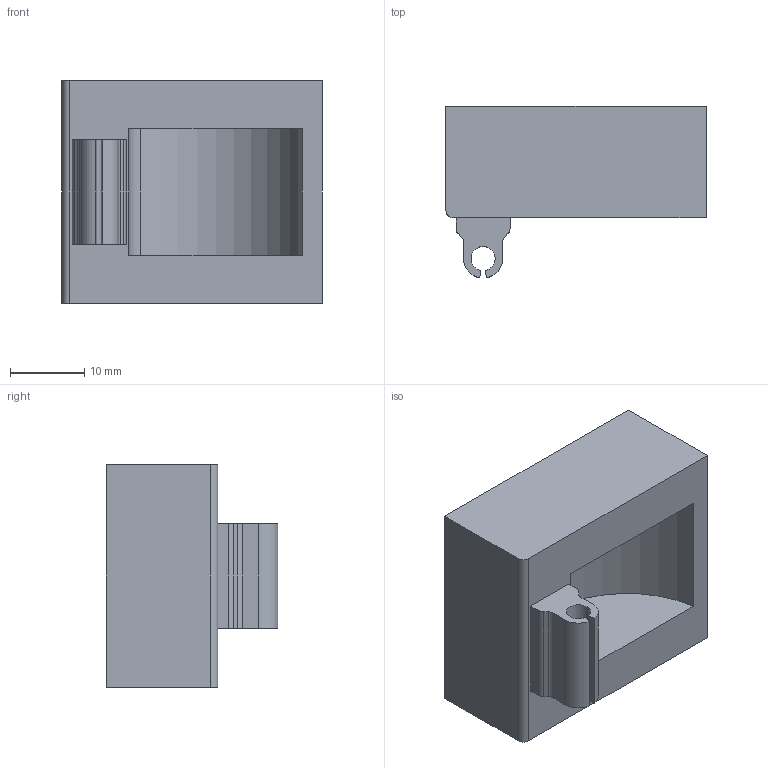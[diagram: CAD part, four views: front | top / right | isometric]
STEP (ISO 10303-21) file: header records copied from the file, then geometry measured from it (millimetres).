
FILE_DESCRIPTION (( 'STEP AP214' ), '1' );
FILE_NAME ('2023-15 - CUVETTE HOLDER LID VARIANT FDM.STEP', '2024-01-24T11:48:19', ( '' ), ( '' ), 'SwSTEP 2.0', 'SolidWorks 2024', '' );
FILE_SCHEMA (( 'AUTOMOTIVE_DESIGN' ));
Length unit declared in the file: millimetre
Products named in the file (1): 2023-15 - CUVETTE HOLDER LID VARIANT FDM
Bounding box: 35 x 23.09 x 30 mm (x, y, z)
Volume: 12066.1 mm3; surface area: 5213.8 mm2
Topology: 1 solids, 1 shells, 32 faces, 84 edges, 56 vertices
Faces by surface type: plane 19, cylinder 13
Entity records: 1017 total; most frequent: DIRECTION 176, CARTESIAN_POINT 173, ORIENTED_EDGE 168, EDGE_CURVE 84, AXIS2_PLACEMENT_3D 59, LINE 58, VECTOR 58, VERTEX_POINT 56
